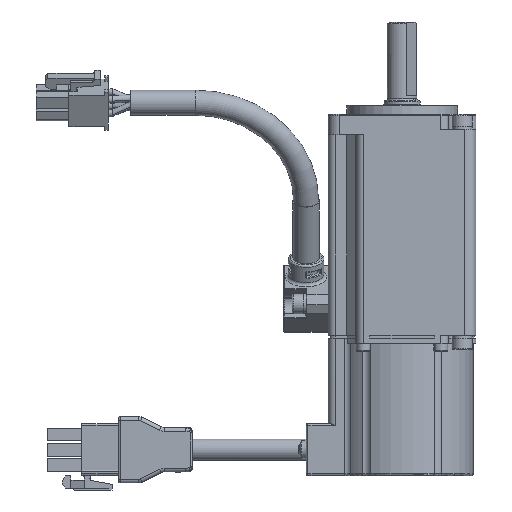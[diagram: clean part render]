
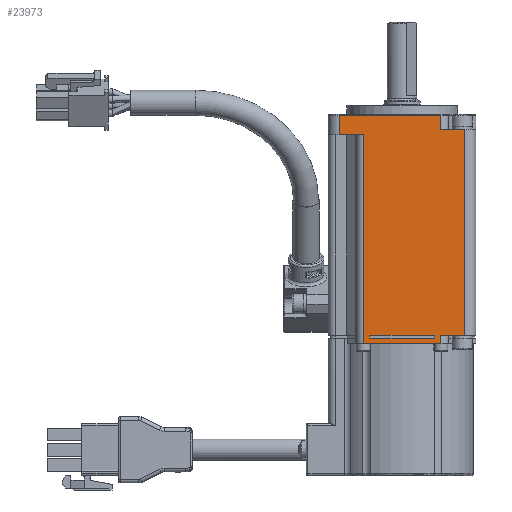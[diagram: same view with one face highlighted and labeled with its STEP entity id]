
A CAD part, left-side view. The second image highlights one B-rep face of the part: STEP entity #23973.
In plain terms, the highlighted planar face has unit normal (-1, 0, 0).
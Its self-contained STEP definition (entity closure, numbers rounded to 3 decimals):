
#327=FACE_BOUND('',#5152,.T.);
#704=PLANE('',#25599);
#3836=FACE_OUTER_BOUND('',#5151,.T.);
#5151=EDGE_LOOP('',(#18022,#18023,#18024,#18025,#18026,#18027,#18028,#18029,
#18030,#18031));
#5152=EDGE_LOOP('',(#18032,#18033,#18034,#18035));
#6274=LINE('',#34647,#8387);
#6297=LINE('',#34759,#8410);
#6317=LINE('',#34814,#8430);
#6320=LINE('',#34820,#8433);
#6333=LINE('',#34852,#8446);
#6536=LINE('',#37897,#8649);
#6537=LINE('',#37901,#8650);
#6538=LINE('',#37903,#8651);
#6539=LINE('',#37905,#8652);
#6540=LINE('',#37906,#8653);
#6541=LINE('',#37909,#8654);
#6542=LINE('',#37911,#8655);
#6543=LINE('',#37913,#8656);
#6544=LINE('',#37914,#8657);
#8387=VECTOR('',#27518,1000.);
#8410=VECTOR('',#27631,1000.);
#8430=VECTOR('',#27693,1000.);
#8433=VECTOR('',#27700,1000.);
#8446=VECTOR('',#27733,1000.);
#8649=VECTOR('',#28728,1000.);
#8650=VECTOR('',#28733,1000.);
#8651=VECTOR('',#28734,1000.);
#8652=VECTOR('',#28735,1000.);
#8653=VECTOR('',#28736,1000.);
#8654=VECTOR('',#28737,1000.);
#8655=VECTOR('',#28738,1000.);
#8656=VECTOR('',#28739,1000.);
#8657=VECTOR('',#28740,1000.);
#10854=VERTEX_POINT('',#34644);
#10855=VERTEX_POINT('',#34646);
#10898=VERTEX_POINT('',#34753);
#10899=VERTEX_POINT('',#34757);
#10913=VERTEX_POINT('',#34813);
#10923=VERTEX_POINT('',#34851);
#11244=VERTEX_POINT('',#37896);
#11245=VERTEX_POINT('',#37900);
#11246=VERTEX_POINT('',#37902);
#11247=VERTEX_POINT('',#37904);
#11248=VERTEX_POINT('',#37907);
#11249=VERTEX_POINT('',#37908);
#11250=VERTEX_POINT('',#37910);
#11251=VERTEX_POINT('',#37912);
#13177=EDGE_CURVE('',#10855,#10854,#6274,.T.);
#13233=EDGE_CURVE('',#10899,#10898,#6297,.T.);
#13260=EDGE_CURVE('',#10898,#10913,#6317,.T.);
#13264=EDGE_CURVE('',#10899,#10855,#6320,.T.);
#13281=EDGE_CURVE('',#10923,#10913,#6333,.T.);
#13795=EDGE_CURVE('',#10854,#11244,#6536,.T.);
#13797=EDGE_CURVE('',#11244,#11245,#6537,.T.);
#13798=EDGE_CURVE('',#11245,#11246,#6538,.T.);
#13799=EDGE_CURVE('',#11246,#11247,#6539,.T.);
#13800=EDGE_CURVE('',#10923,#11247,#6540,.T.);
#13801=EDGE_CURVE('',#11248,#11249,#6541,.T.);
#13802=EDGE_CURVE('',#11250,#11249,#6542,.T.);
#13803=EDGE_CURVE('',#11251,#11250,#6543,.T.);
#13804=EDGE_CURVE('',#11251,#11248,#6544,.T.);
#18022=ORIENTED_EDGE('',*,*,#13795,.T.);
#18023=ORIENTED_EDGE('',*,*,#13797,.T.);
#18024=ORIENTED_EDGE('',*,*,#13798,.T.);
#18025=ORIENTED_EDGE('',*,*,#13799,.T.);
#18026=ORIENTED_EDGE('',*,*,#13800,.F.);
#18027=ORIENTED_EDGE('',*,*,#13281,.T.);
#18028=ORIENTED_EDGE('',*,*,#13260,.F.);
#18029=ORIENTED_EDGE('',*,*,#13233,.F.);
#18030=ORIENTED_EDGE('',*,*,#13264,.T.);
#18031=ORIENTED_EDGE('',*,*,#13177,.T.);
#18032=ORIENTED_EDGE('',*,*,#13801,.T.);
#18033=ORIENTED_EDGE('',*,*,#13802,.F.);
#18034=ORIENTED_EDGE('',*,*,#13803,.F.);
#18035=ORIENTED_EDGE('',*,*,#13804,.T.);
#23973=ADVANCED_FACE('',(#3836,#327),#704,.T.);
#25599=AXIS2_PLACEMENT_3D('',#37899,#28731,#28732);
#27518=DIRECTION('',(0.,-1.,0.));
#27631=DIRECTION('',(0.,-1.,0.));
#27693=DIRECTION('',(0.,0.,-1.));
#27700=DIRECTION('',(0.,0.,-1.));
#27733=DIRECTION('',(0.,1.,0.));
#28728=DIRECTION('',(0.,0.,-1.));
#28731=DIRECTION('center_axis',(-1.,0.,0.));
#28732=DIRECTION('ref_axis',(0.,-1.,0.));
#28733=DIRECTION('',(0.,-1.,0.));
#28734=DIRECTION('',(0.,0.,1.));
#28735=DIRECTION('',(0.,-1.,0.));
#28736=DIRECTION('',(0.,0.,-1.));
#28737=DIRECTION('',(0.,-1.,0.));
#28738=DIRECTION('',(0.,0.,1.));
#28739=DIRECTION('',(0.,-1.,0.));
#28740=DIRECTION('',(0.,0.,1.));
#34644=CARTESIAN_POINT('',(-20.,10.5,19.6));
#34646=CARTESIAN_POINT('',(-20.,17.,19.6));
#34647=CARTESIAN_POINT('',(-20.,17.01,19.6));
#34753=CARTESIAN_POINT('',(-20.,-10.5,24.9));
#34757=CARTESIAN_POINT('',(-20.,17.,24.9));
#34759=CARTESIAN_POINT('',(-20.,17.01,24.9));
#34813=CARTESIAN_POINT('',(-20.,-10.5,21.1));
#34814=CARTESIAN_POINT('',(-20.,-10.5,24.9));
#34820=CARTESIAN_POINT('',(-20.,17.,19.59));
#34851=CARTESIAN_POINT('',(-20.,-17.,21.1));
#34852=CARTESIAN_POINT('',(-20.,17.01,21.1));
#37896=CARTESIAN_POINT('',(-20.,10.5,-37.));
#37897=CARTESIAN_POINT('',(-20.,10.5,-19.59));
#37899=CARTESIAN_POINT('Origin',(-20.,10.51,-19.61));
#37900=CARTESIAN_POINT('',(-20.,-10.5,-37.));
#37901=CARTESIAN_POINT('',(-20.,-10.51,-37.));
#37902=CARTESIAN_POINT('',(-20.,-10.5,-34.7));
#37903=CARTESIAN_POINT('',(-20.,-10.5,-52.49));
#37904=CARTESIAN_POINT('',(-20.,-17.,-34.7));
#37905=CARTESIAN_POINT('',(-20.,-17.01,-34.7));
#37906=CARTESIAN_POINT('',(-20.,-17.,-34.7));
#37907=CARTESIAN_POINT('',(-20.,8.75,-34.7));
#37908=CARTESIAN_POINT('',(-20.,-8.75,-34.7));
#37909=CARTESIAN_POINT('',(-20.,-17.01,-34.7));
#37910=CARTESIAN_POINT('',(-20.,-8.75,-35.5));
#37911=CARTESIAN_POINT('',(-20.,-8.75,-44.01));
#37912=CARTESIAN_POINT('',(-20.,8.75,-35.5));
#37913=CARTESIAN_POINT('',(-20.,-20.01,-35.5));
#37914=CARTESIAN_POINT('',(-20.,8.75,-43.19));
